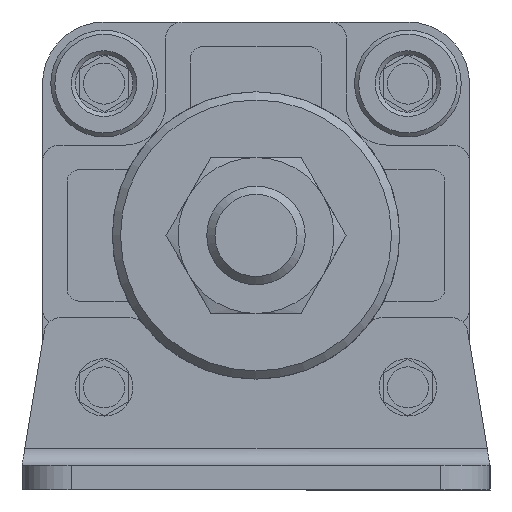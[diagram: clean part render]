
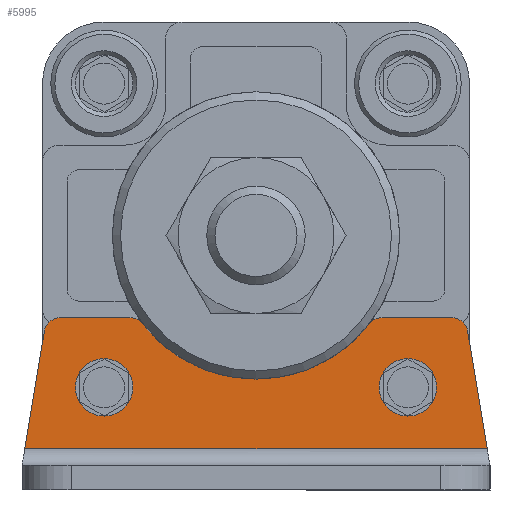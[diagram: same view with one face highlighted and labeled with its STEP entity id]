
A CAD part, front view. The second image highlights one B-rep face of the part: STEP entity #5995.
In plain terms, the highlighted planar face has unit normal (0, -1, 0).
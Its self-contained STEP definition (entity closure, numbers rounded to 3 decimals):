
#410=LINE('',#8991,#750);
#416=LINE('',#9007,#756);
#420=LINE('',#9018,#760);
#424=LINE('',#9031,#764);
#428=LINE('',#9047,#768);
#750=VECTOR('',#7693,1000.);
#756=VECTOR('',#7703,1000.);
#760=VECTOR('',#7711,1000.);
#764=VECTOR('',#7723,1000.);
#768=VECTOR('',#7739,1000.);
#1911=ORIENTED_EDGE('',*,*,#2610,.F.);
#1912=ORIENTED_EDGE('',*,*,#2611,.F.);
#1913=ORIENTED_EDGE('',*,*,#2600,.T.);
#1914=ORIENTED_EDGE('',*,*,#2612,.T.);
#1915=ORIENTED_EDGE('',*,*,#2602,.T.);
#1916=ORIENTED_EDGE('',*,*,#2613,.T.);
#1917=ORIENTED_EDGE('',*,*,#2606,.T.);
#1918=ORIENTED_EDGE('',*,*,#2614,.T.);
#1919=ORIENTED_EDGE('',*,*,#2588,.T.);
#1920=ORIENTED_EDGE('',*,*,#2615,.T.);
#1921=ORIENTED_EDGE('',*,*,#2595,.T.);
#1922=ORIENTED_EDGE('',*,*,#2616,.T.);
#2588=EDGE_CURVE('',#3041,#3042,#410,.T.);
#2595=EDGE_CURVE('',#3049,#3048,#416,.T.);
#2600=EDGE_CURVE('',#3054,#3053,#420,.T.);
#2602=EDGE_CURVE('',#3055,#3056,#3292,.T.);
#2606=EDGE_CURVE('',#3059,#3060,#424,.T.);
#2610=EDGE_CURVE('',#3063,#3063,#3294,.F.);
#2611=EDGE_CURVE('',#3064,#3064,#3295,.F.);
#2612=EDGE_CURVE('',#3053,#3055,#3296,.F.);
#2613=EDGE_CURVE('',#3056,#3059,#3297,.F.);
#2614=EDGE_CURVE('',#3060,#3041,#3298,.F.);
#2615=EDGE_CURVE('',#3042,#3049,#428,.T.);
#2616=EDGE_CURVE('',#3048,#3054,#3299,.F.);
#3041=VERTEX_POINT('',#8992);
#3042=VERTEX_POINT('',#8993);
#3048=VERTEX_POINT('',#9006);
#3049=VERTEX_POINT('',#9008);
#3053=VERTEX_POINT('',#9017);
#3054=VERTEX_POINT('',#9019);
#3055=VERTEX_POINT('',#9023);
#3056=VERTEX_POINT('',#9024);
#3059=VERTEX_POINT('',#9032);
#3060=VERTEX_POINT('',#9033);
#3063=VERTEX_POINT('',#9041);
#3064=VERTEX_POINT('',#9043);
#3292=CIRCLE('',#6483,17.5);
#3294=CIRCLE('',#6487,3.5);
#3295=CIRCLE('',#6488,3.5);
#3296=CIRCLE('',#6489,2.);
#3297=CIRCLE('',#6490,2.);
#3298=CIRCLE('',#6491,2.);
#3299=CIRCLE('',#6492,2.);
#3637=EDGE_LOOP('',(#1911));
#3638=EDGE_LOOP('',(#1912));
#3639=EDGE_LOOP('',(#1913,#1914,#1915,#1916,#1917,#1918,#1919,#1920,#1921,
#1922));
#4001=FACE_BOUND('',#3637,.T.);
#4002=FACE_BOUND('',#3638,.T.);
#4003=FACE_BOUND('',#3639,.T.);
#4189=PLANE('',#6486);
#5995=ADVANCED_FACE('',(#4001,#4002,#4003),#4189,.F.);
#6483=AXIS2_PLACEMENT_3D('',#9022,#7715,#7716);
#6486=AXIS2_PLACEMENT_3D('',#9039,#7727,#7728);
#6487=AXIS2_PLACEMENT_3D('',#9040,#7729,#7730);
#6488=AXIS2_PLACEMENT_3D('',#9042,#7731,#7732);
#6489=AXIS2_PLACEMENT_3D('',#9044,#7733,#7734);
#6490=AXIS2_PLACEMENT_3D('',#9045,#7735,#7736);
#6491=AXIS2_PLACEMENT_3D('',#9046,#7737,#7738);
#6492=AXIS2_PLACEMENT_3D('',#9048,#7740,#7741);
#7693=DIRECTION('',(-0.164,0.,-0.986));
#7703=DIRECTION('',(-0.164,0.,0.986));
#7711=DIRECTION('',(-1.,0.,0.));
#7715=DIRECTION('',(0.,1.,0.));
#7716=DIRECTION('',(1.,0.,0.));
#7723=DIRECTION('',(-1.,0.,0.));
#7727=DIRECTION('',(0.,1.,0.));
#7728=DIRECTION('',(0.,0.,1.));
#7729=DIRECTION('',(0.,1.,0.));
#7730=DIRECTION('',(0.,0.,1.));
#7731=DIRECTION('',(0.,1.,0.));
#7732=DIRECTION('',(0.,0.,1.));
#7733=DIRECTION('',(0.,1.,0.));
#7734=DIRECTION('',(0.,0.,1.));
#7735=DIRECTION('',(0.,1.,0.));
#7736=DIRECTION('',(0.,0.,1.));
#7737=DIRECTION('',(0.,1.,0.));
#7738=DIRECTION('',(0.,0.,1.));
#7739=DIRECTION('',(1.,0.,0.));
#7740=DIRECTION('',(0.,1.,0.));
#7741=DIRECTION('',(0.,0.,1.));
#8991=CARTESIAN_POINT('',(-25.5,-3.,-10.));
#8992=CARTESIAN_POINT('',(-25.779,-3.,-11.671));
#8993=CARTESIAN_POINT('',(-28.167,-3.,-26.));
#9006=CARTESIAN_POINT('',(25.779,-3.,-11.671));
#9007=CARTESIAN_POINT('',(25.5,-3.,-10.));
#9008=CARTESIAN_POINT('',(28.167,-3.,-26.));
#9017=CARTESIAN_POINT('',(15.37,-3.,-10.));
#9018=CARTESIAN_POINT('',(14.361,-3.,-10.));
#9019=CARTESIAN_POINT('',(23.806,-3.,-10.));
#9022=CARTESIAN_POINT('',(0.,-3.,0.));
#9023=CARTESIAN_POINT('',(13.794,-3.,-10.769));
#9024=CARTESIAN_POINT('',(-13.794,-3.,-10.769));
#9031=CARTESIAN_POINT('',(-14.361,-3.,-10.));
#9032=CARTESIAN_POINT('',(-15.37,-3.,-10.));
#9033=CARTESIAN_POINT('',(-23.806,-3.,-10.));
#9039=CARTESIAN_POINT('',(0.,-3.,0.));
#9040=CARTESIAN_POINT('',(18.5,-3.,-18.5));
#9041=CARTESIAN_POINT('',(18.5,-3.,-15.));
#9042=CARTESIAN_POINT('',(-18.5,-3.,-18.5));
#9043=CARTESIAN_POINT('',(-18.5,-3.,-15.));
#9044=CARTESIAN_POINT('',(15.37,-3.,-12.));
#9045=CARTESIAN_POINT('',(-15.37,-3.,-12.));
#9046=CARTESIAN_POINT('',(-23.806,-3.,-12.));
#9047=CARTESIAN_POINT('',(0.,-3.,-26.));
#9048=CARTESIAN_POINT('',(23.806,-3.,-12.));
